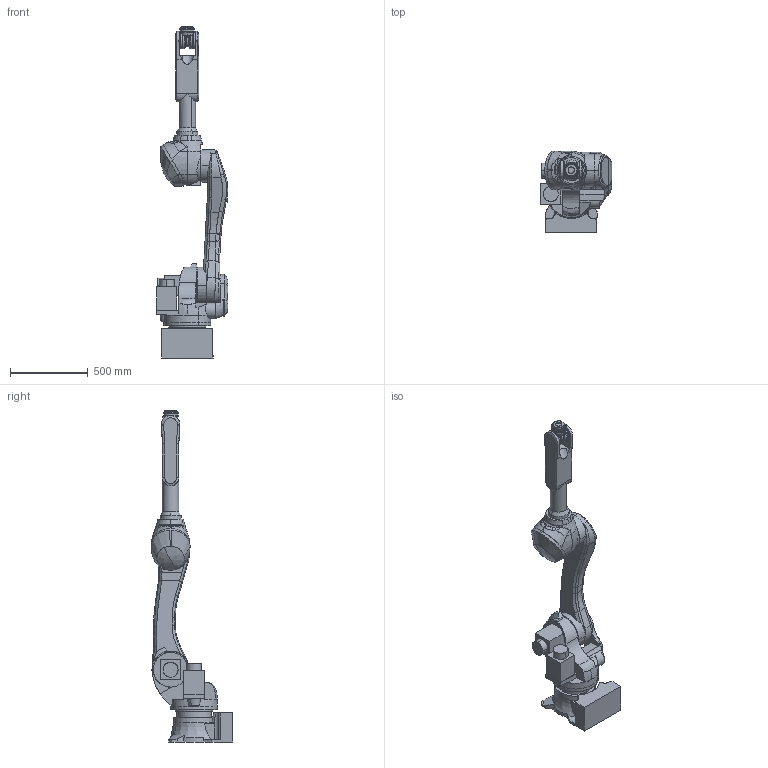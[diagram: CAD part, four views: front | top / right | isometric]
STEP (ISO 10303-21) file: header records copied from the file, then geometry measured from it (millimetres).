
FILE_DESCRIPTION (( 'STEP AP203' ), '1' );
FILE_NAME ('拓星际R172-20-CQ 机器人模型.STEP', '2020-11-11T02:39:52', ( 'Topstarltd' ), ( 'Topstarltd.Com' ), 'SwSTEP 2.0', 'SolidWorks 2016', '' );
FILE_SCHEMA (( 'CONFIG_CONTROL_DESIGN' ));
Length unit declared in the file: millimetre
Products named in the file (8): 阹陎暱R172-20-CQ-J3; 阹陎暱R172-20-CQ-J4; 阹陎暱R172-20-CQ-J5; 阹陎暱R172-20-CQ-J6; 阹陎暱R172-20-CQ-J0; 拓星际R172-20-CQ 机器人模型; 阹陎暱R172-20-CQ-J1; 阹陎暱R172-20-CQ-J2
Assembly tree (7 placements, depth 2):
  拓星际R172-20-CQ 机器人模型
    阹陎暱R172-20-CQ-J0
    阹陎暱R172-20-CQ-J1
    阹陎暱R172-20-CQ-J2
    阹陎暱R172-20-CQ-J3
    阹陎暱R172-20-CQ-J4
    阹陎暱R172-20-CQ-J5
    阹陎暱R172-20-CQ-J6
Bounding box: 459.5 x 524.98 x 2135 mm (x, y, z)
Surface area: 2677456.9 mm2 (no closed solid volume)
Topology: 0 solids, 463 shells, 515 faces, 2503 edges, 2445 vertices
Faces by surface type: cylinder 162, bspline 151, plane 147, cone 55
Entity records: 59061 total; most frequent: CARTESIAN_POINT 41410, DIRECTION 2559, ORIENTED_EDGE 2549, EDGE_CURVE 2497, VERTEX_POINT 2445, B_SPLINE_CURVE_WITH_KNOTS 1124, VECTOR 935, LINE 935
